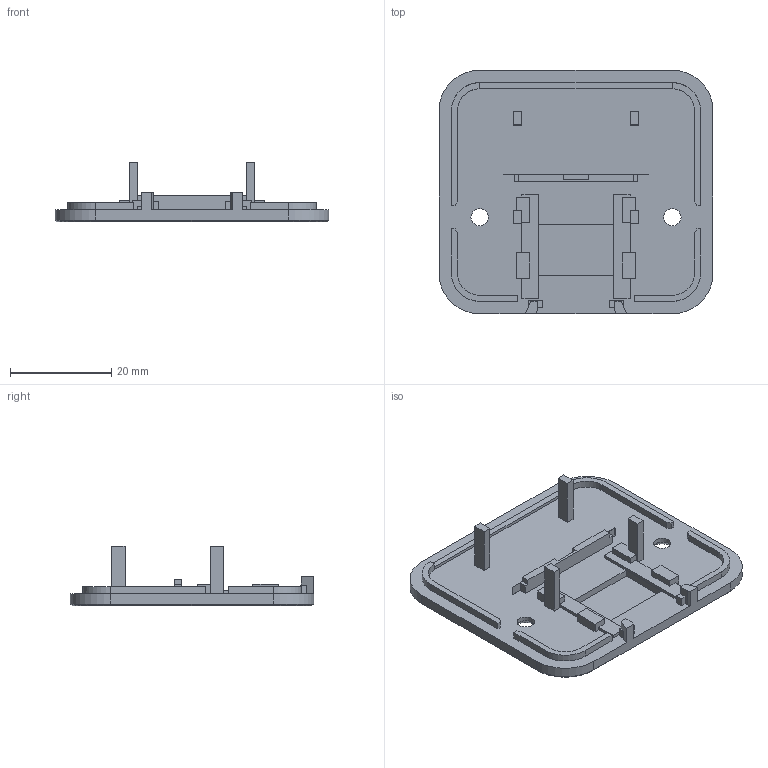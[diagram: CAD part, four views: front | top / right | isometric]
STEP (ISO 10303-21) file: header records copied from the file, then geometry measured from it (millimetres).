
FILE_DESCRIPTION(('Open CASCADE Model'),'2;1');
FILE_NAME('Open CASCADE Shape Model','2026-10-07T16:08:43',('Author'),( 'Open CASCADE'),'Open CASCADE STEP processor 7.9','Open CASCADE 7.9' ,'Unknown');
FILE_SCHEMA(('AUTOMOTIVE_DESIGN { 1 0 10303 214 1 1 1 1 }'));
Length unit declared in the file: millimetre
Products named in the file (1): Open CASCADE STEP translator 7.9 2
Bounding box: 54 x 48 x 11.8 mm (x, y, z)
Volume: 6419.9 mm3; surface area: 6564 mm2
Topology: 1 solids, 1 shells, 161 faces, 442 edges, 290 vertices
Faces by surface type: plane 137, cylinder 18, cone 6
Full cylindrical faces by diameter (mm): 3.4 x2
Entity records: 10595 total; most frequent: CARTESIAN_POINT 2121, DIRECTION 1433, LINE 993, VECTOR 993, ORIENTED_EDGE 884, PCURVE 884, DEFINITIONAL_REPRESENTATION 884, EDGE_CURVE 442
